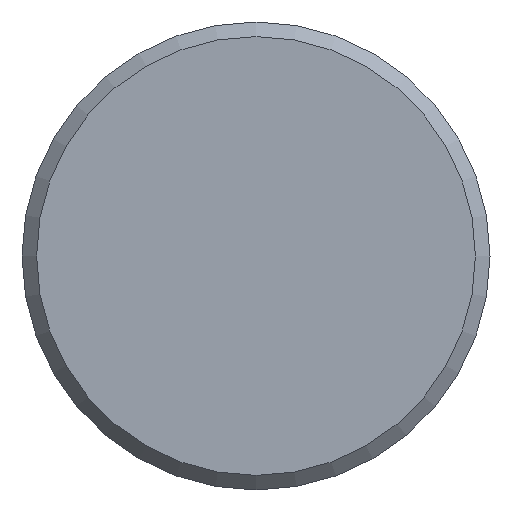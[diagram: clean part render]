
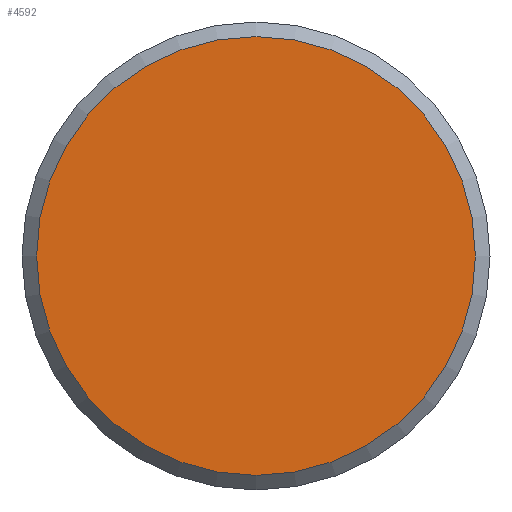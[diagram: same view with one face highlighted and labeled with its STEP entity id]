
A CAD part, left-side view. The second image highlights one B-rep face of the part: STEP entity #4592.
In plain terms, the highlighted planar face has unit normal (-1, 0, 0).
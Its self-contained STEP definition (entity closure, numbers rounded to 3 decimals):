
#1650=PLANE('',#4225);
#1710=ORIENTED_EDGE('',*,*,#2332,.F.);
#2020=CIRCLE('',#4224,7.5);
#2176=VERTEX_POINT('',#3752);
#2332=EDGE_CURVE('',#2176,#2176,#2020,.T.);
#2490=EDGE_LOOP('',(#1710));
#2802=FACE_BOUND('',#2490,.T.);
#3118=DIRECTION('',(1.,0.,0.));
#3119=DIRECTION('',(0.,-7.5,0.));
#3120=DIRECTION('',(-1.,0.,0.));
#3121=DIRECTION('',(0.,1.,0.));
#3752=CARTESIAN_POINT('',(38.394,49.518,0.));
#3753=CARTESIAN_POINT('',(38.394,57.018,0.));
#3754=CARTESIAN_POINT('',(38.394,57.018,0.));
#4224=AXIS2_PLACEMENT_3D('',#3753,#3118,#3119);
#4225=AXIS2_PLACEMENT_3D('',#3754,#3120,#3121);
#4592=ADVANCED_FACE('',(#2802),#1650,.T.);
